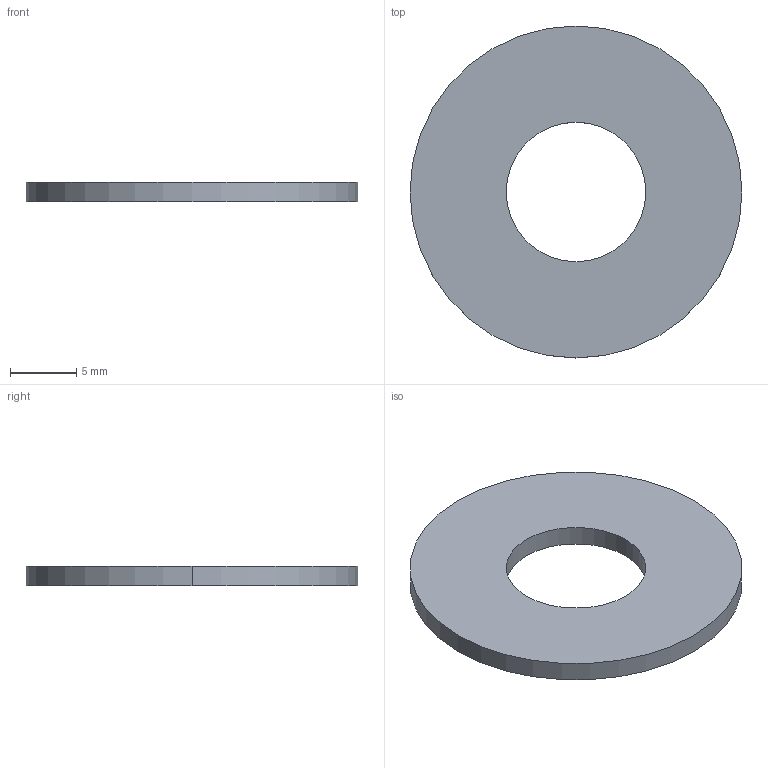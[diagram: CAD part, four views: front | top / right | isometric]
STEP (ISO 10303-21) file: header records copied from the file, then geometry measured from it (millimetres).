
FILE_DESCRIPTION (( 'STEP AP203' ), '1' );
FILE_NAME ('P0333.100-025-A4.step', '2018-12-17T19:08:53', ( '' ), ( '' ), 'SwSTEP 2.0', 'SolidWorks 2017', '' );
FILE_SCHEMA (( 'CONFIG_CONTROL_DESIGN' ));
Length unit declared in the file: millimetre
Products named in the file (1): P0333.100-025-A4
Bounding box: 25 x 25 x 1.5 mm (x, y, z)
Volume: 606.4 mm3; surface area: 975.9 mm2
Topology: 1 solids, 1 shells, 6 faces, 12 edges, 8 vertices
Faces by surface type: cylinder 4, plane 2
Entity records: 245 total; most frequent: DIRECTION 34, CARTESIAN_POINT 27, ORIENTED_EDGE 24, AXIS2_PLACEMENT_3D 15, EDGE_CURVE 12, VERTEX_POINT 8, CIRCLE 8, PERSON_AND_ORGANIZATION 8
